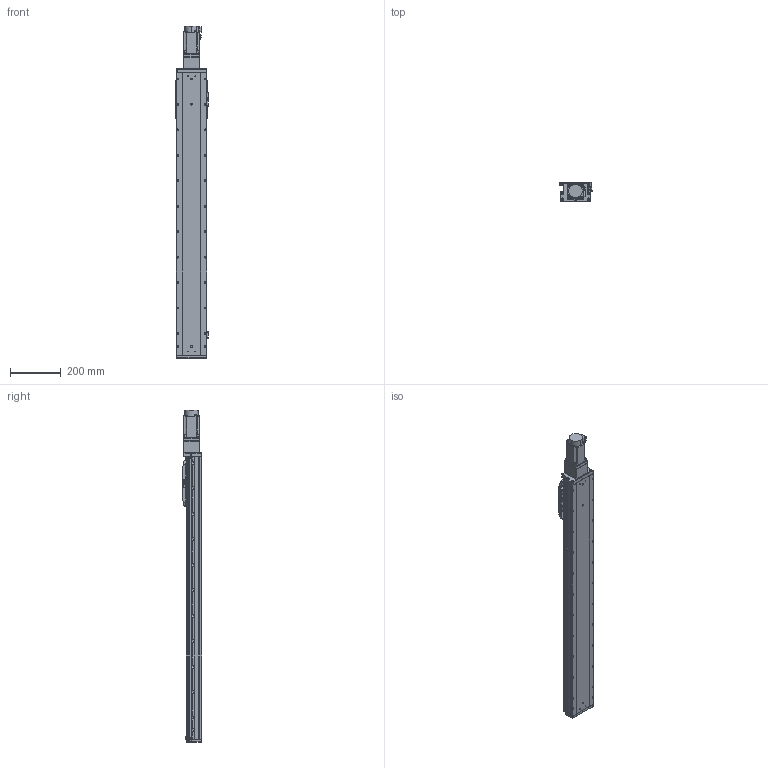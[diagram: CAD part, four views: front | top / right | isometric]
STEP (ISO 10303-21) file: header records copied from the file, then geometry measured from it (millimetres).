
FILE_DESCRIPTION (( 'STEP AP203' ), '1' );
FILE_NAME ('GTH12-900-BC-M40-C4.step', '2022-09-23T01:16:21', ( '微软用户' ), ( '微软中国' ), 'SwSTEP 2.0', 'SolidWorks 2020', '' );
FILE_SCHEMA (( 'CONFIG_CONTROL_DESIGN' ));
Length unit declared in the file: millimetre
Products named in the file (19): GTH120-001_900; GBT 70.3-M3℅8; CTHA86-006-1_CTHA86-006-2; GTH120-003; GTH80-022; CTHA86-013; GTH120-006; GTH80-028; CTHA86-027; GTH120-004; GTH50-023; hg-kn43j_-s100_; GTH120-013; GTH50-024; GTH12-900-BC-M40-C4; GBT 70.1-M3℅6; GBT96.1-2002 3×0.8; GBT 70.1-M5×16; BTH-M3X5X6
Assembly tree (62 placements, depth 2):
  GTH12-900-BC-M40-C4
    GTH120-001_900
    GTH120-003
    GTH120-006
    GTH120-004
    GTH120-013
    GBT 70.1-M3℅6  x14
    GBT 70.1-M5×16  x10
    GBT 70.3-M3℅8  x6
    GTH80-022
    GTH80-028  x2
    GTH50-023  x3
    GTH50-024  x3
    GBT96.1-2002 3×0.8  x6
    BTH-M3X5X6  x8
    CTHA86-006-1_CTHA86-006-2
    CTHA86-013
    CTHA86-027
    hg-kn43j_-s100_
Bounding box: 125.7 x 76 x 1303.7 mm (x, y, z)
Volume: 8309850.7 mm3; surface area: 720935.8 mm2
Topology: 64 solids, 64 shells, 2533 faces, 5896 edges, 3595 vertices
Faces by surface type: plane 1280, cylinder 732, cone 343, torus 170, sphere 8
Entity records: 46445 total; most frequent: DIRECTION 7790, CARTESIAN_POINT 7472, ORIENTED_EDGE 7174, EDGE_CURVE 3587, AXIS2_PLACEMENT_3D 2722, VECTOR 2346, LINE 2346, VERTEX_POINT 2254
